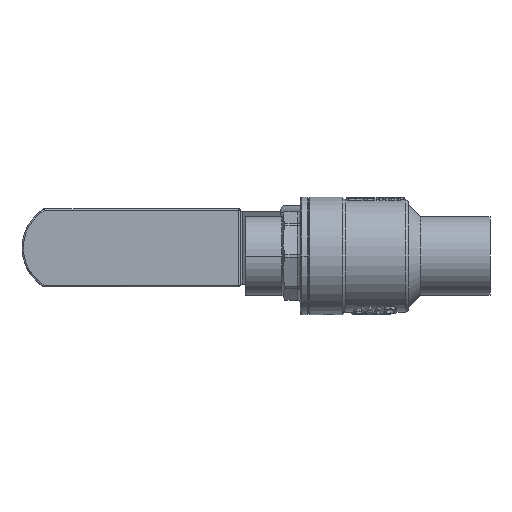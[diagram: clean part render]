
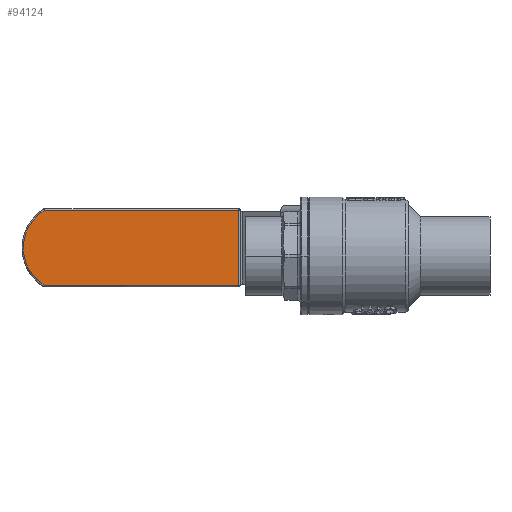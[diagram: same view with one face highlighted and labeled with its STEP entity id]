
A CAD part, front view. The second image highlights one B-rep face of the part: STEP entity #94124.
In plain terms, the highlighted planar face has unit normal (0, -1, 0).
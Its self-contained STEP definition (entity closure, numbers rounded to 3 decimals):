
#2010 = CARTESIAN_POINT ( 'NONE',  ( 44.703, 21.4, -13.15 ) ) ;
#9785 = AXIS2_PLACEMENT_3D ( 'NONE', #12974, #22031, #82578 ) ;
#12974 = CARTESIAN_POINT ( 'NONE',  ( 105., 21.4, 0. ) ) ;
#15727 = CARTESIAN_POINT ( 'NONE',  ( 113.205, 21.4, -13.15 ) ) ;
#17810 = DIRECTION ( 'NONE',  ( -1., 0., 0. ) ) ;
#19099 = EDGE_CURVE ( 'NONE', #81557, #107266, #36846, .T. ) ;
#19863 = VERTEX_POINT ( 'NONE', #15727 ) ;
#20333 = CARTESIAN_POINT ( 'NONE',  ( 45.203, 21.4, 12.65 ) ) ;
#22010 = LINE ( 'NONE', #49407, #110869 ) ;
#22031 = DIRECTION ( 'NONE',  ( 0., -1., 0. ) ) ;
#24578 = VERTEX_POINT ( 'NONE', #105859 ) ;
#26816 = DIRECTION ( 'NONE',  ( 1., 0., 0. ) ) ;
#28094 = ORIENTED_EDGE ( 'NONE', *, *, #39870, .T. ) ;
#28755 = DIRECTION ( 'NONE',  ( 0., 0., 1. ) ) ;
#30149 = ORIENTED_EDGE ( 'NONE', *, *, #106689, .T. ) ;
#30826 = VECTOR ( 'NONE', #26816, 1000. ) ;
#35177 = AXIS2_PLACEMENT_3D ( 'NONE', #55882, #72414, #28755 ) ;
#35776 = EDGE_LOOP ( 'NONE', ( #30149, #89035, #44451, #28094 ) ) ;
#36846 = LINE ( 'NONE', #20333, #51652 ) ;
#39870 = EDGE_CURVE ( 'NONE', #19863, #24578, #103507, .T. ) ;
#44451 = ORIENTED_EDGE ( 'NONE', *, *, #49721, .T. ) ;
#45611 = LINE ( 'NONE', #2010, #30826 ) ;
#46436 = PLANE ( 'NONE',  #35177 ) ;
#49407 = CARTESIAN_POINT ( 'NONE',  ( 44.703, 21.4, 13.15 ) ) ;
#49721 = EDGE_CURVE ( 'NONE', #107266, #19863, #45611, .T. ) ;
#51652 = VECTOR ( 'NONE', #71510, 1000. ) ;
#55882 = CARTESIAN_POINT ( 'NONE',  ( 44.703, 21.4, 12.65 ) ) ;
#71510 = DIRECTION ( 'NONE',  ( 0., 0., -1. ) ) ;
#72414 = DIRECTION ( 'NONE',  ( 0., 1., 0. ) ) ;
#81557 = VERTEX_POINT ( 'NONE', #103935 ) ;
#82578 = DIRECTION ( 'NONE',  ( 0., 0., 1. ) ) ;
#83799 = FACE_OUTER_BOUND ( 'NONE', #35776, .T. ) ;
#89035 = ORIENTED_EDGE ( 'NONE', *, *, #19099, .T. ) ;
#94124 = ADVANCED_FACE ( 'NONE', ( #83799 ), #46436, .F. ) ;
#103507 = CIRCLE ( 'NONE', #9785, 15.5 ) ;
#103935 = CARTESIAN_POINT ( 'NONE',  ( 45.203, 21.4, 13.15 ) ) ;
#105859 = CARTESIAN_POINT ( 'NONE',  ( 113.205, 21.4, 13.15 ) ) ;
#105959 = CARTESIAN_POINT ( 'NONE',  ( 45.203, 21.4, -13.15 ) ) ;
#106689 = EDGE_CURVE ( 'NONE', #24578, #81557, #22010, .T. ) ;
#107266 = VERTEX_POINT ( 'NONE', #105959 ) ;
#110869 = VECTOR ( 'NONE', #17810, 1000. ) ;
